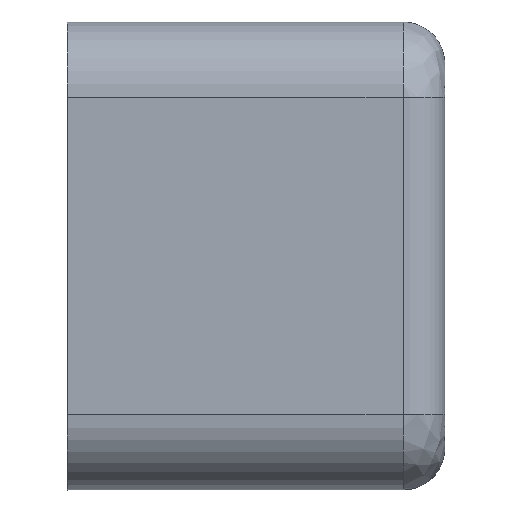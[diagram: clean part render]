
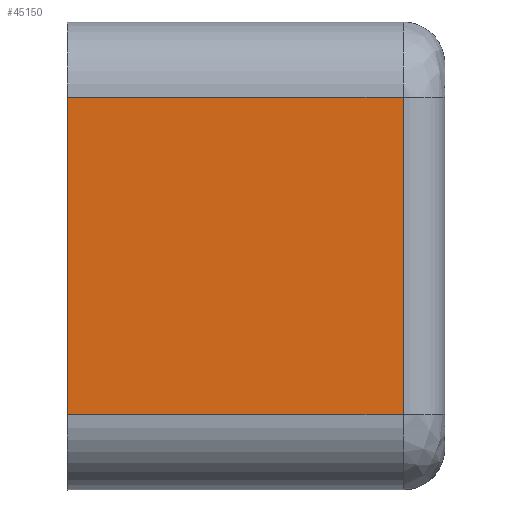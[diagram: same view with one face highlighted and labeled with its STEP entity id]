
A CAD part, top view. The second image highlights one B-rep face of the part: STEP entity #45150.
In plain terms, the highlighted planar face has unit normal (0, 0, 1).
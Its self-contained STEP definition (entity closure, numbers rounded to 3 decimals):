
#40019=DIRECTION('',(0.,-1.,0.));
#40020=VECTOR('',#40019,38.);
#40021=CARTESIAN_POINT('',(-34.681,13.595,
25.25));
#40022=LINE('',#40021,#40020);
#40078=DIRECTION('',(1.,0.,0.));
#40079=VECTOR('',#40078,40.219);
#40080=CARTESIAN_POINT('',(-34.681,13.595,
25.25));
#40081=LINE('',#40080,#40079);
#40085=DIRECTION('',(1.,0.,0.));
#40086=VECTOR('',#40085,40.219);
#40087=CARTESIAN_POINT('',(-34.681,-24.405,
25.25));
#40088=LINE('',#40087,#40086);
#40151=DIRECTION('',(0.,-1.,0.));
#40152=VECTOR('',#40151,38.);
#40153=CARTESIAN_POINT('',(5.538,13.595,25.25));
#40154=LINE('',#40153,#40152);
#40618=CARTESIAN_POINT('',(5.538,13.595,25.25));
#40620=VERTEX_POINT('',#40618);
#40639=CARTESIAN_POINT('',(5.538,-24.405,
25.25));
#40640=VERTEX_POINT('',#40639);
#40657=CARTESIAN_POINT('',(-34.681,13.595,
25.25));
#40658=VERTEX_POINT('',#40657);
#40659=CARTESIAN_POINT('',(-34.681,-24.405,
25.25));
#40660=VERTEX_POINT('',#40659);
#45137=CARTESIAN_POINT('',(-27.681,7.755,
25.25));
#45138=DIRECTION('',(0.,0.,-1.));
#45139=DIRECTION('',(0.,-1.,0.));
#45140=AXIS2_PLACEMENT_3D('',#45137,#45138,#45139);
#45141=PLANE('',#45140);
#45143=ORIENTED_EDGE('',*,*,#45142,.F.);
#45144=ORIENTED_EDGE('',*,*,#45091,.F.);
#45145=ORIENTED_EDGE('',*,*,#45128,.T.);
#45147=ORIENTED_EDGE('',*,*,#45146,.T.);
#45148=EDGE_LOOP('',(#45143,#45144,#45145,#45147));
#45149=FACE_OUTER_BOUND('',#45148,.F.);
#45091=EDGE_CURVE('',#40658,#40660,#40022,.T.);
#45128=EDGE_CURVE('',#40658,#40620,#40081,.T.);
#45142=EDGE_CURVE('',#40660,#40640,#40088,.T.);
#45146=EDGE_CURVE('',#40620,#40640,#40154,.T.);
#45150=ADVANCED_FACE('',(#45149),#45141,.F.);
